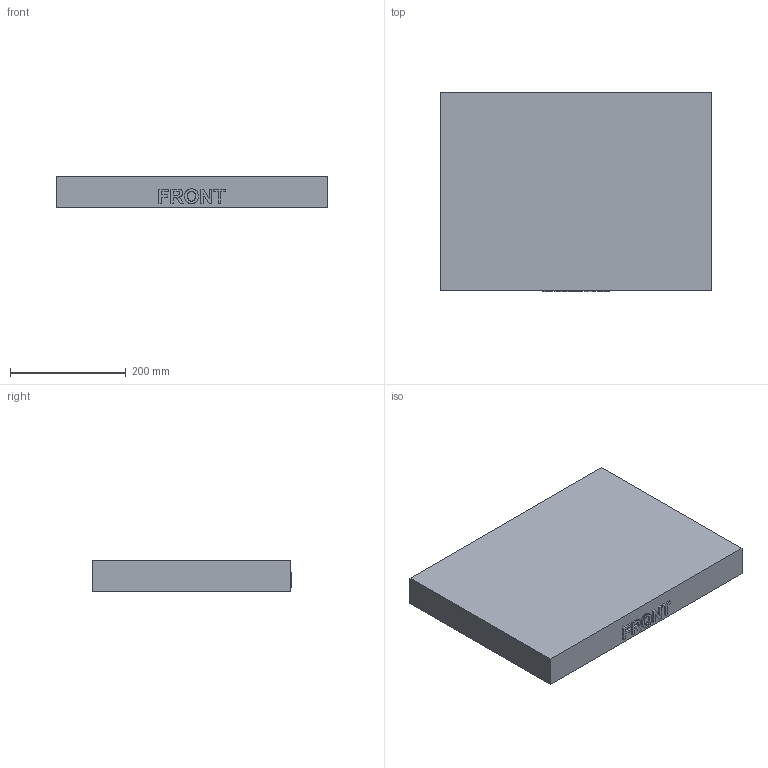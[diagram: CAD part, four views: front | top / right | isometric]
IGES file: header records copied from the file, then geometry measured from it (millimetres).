
Start section: Comment
Global section: file name: 2400-lid_internal_tub.igs; native system:  By UGS Corp.; preprocessor: XPlus GENERIC/IGES 3.0; author: Author; organization: Title; date: 20100513.085657; units: millimetre
Bounding box: 469.9 x 346.07 x 53.98 mm (x, y, z)
Surface area: 478614.2 mm2 (no closed solid volume)
Topology: 0 solids, 0 shells, 199 faces, 1192 edges, 1180 vertices
Faces by surface type: bspline 199
